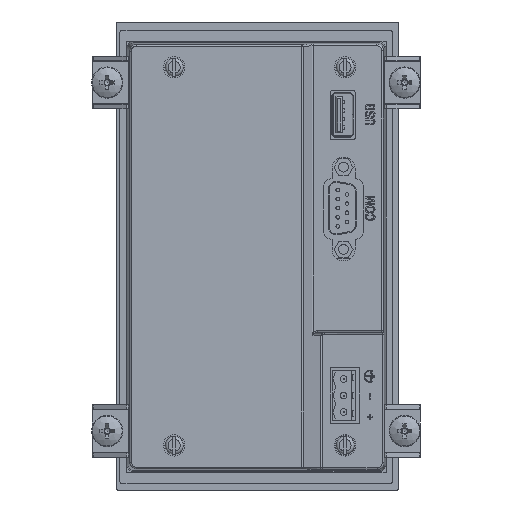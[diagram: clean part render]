
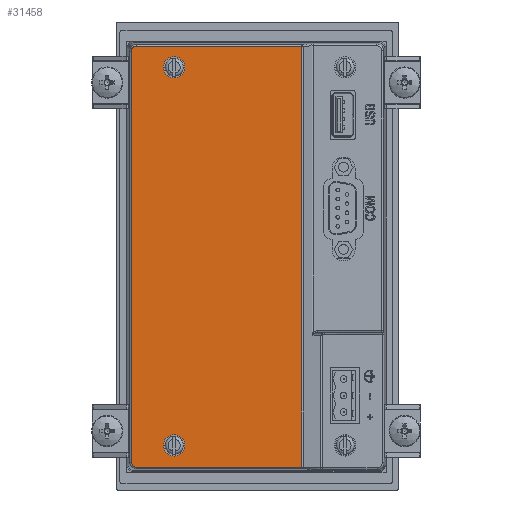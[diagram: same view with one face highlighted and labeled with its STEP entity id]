
A CAD part, left-side view. The second image highlights one B-rep face of the part: STEP entity #31458.
In plain terms, the highlighted planar face has unit normal (-1, 0, 0) as drawn and (0, 0, -1) by its records, which use the part's own axes.
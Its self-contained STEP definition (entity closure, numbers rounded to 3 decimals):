
#587 = ORIENTED_EDGE ( 'NONE', *, *, #32381, .T. ) ;
#715 = CARTESIAN_POINT ( 'NONE',  ( 121.882, 63.53, 0. ) ) ;
#2673 = VERTEX_POINT ( 'NONE', #33387 ) ;
#2814 = CARTESIAN_POINT ( 'NONE',  ( 0., 77., 0. ) ) ;
#3107 = ORIENTED_EDGE ( 'NONE', *, *, #30061, .T. ) ;
#3766 = ORIENTED_EDGE ( 'NONE', *, *, #23655, .T. ) ;
#4181 = AXIS2_PLACEMENT_3D ( 'NONE', #715, #40794, #45600 ) ;
#4549 = DIRECTION ( 'NONE',  ( 0., 1., 0. ) ) ;
#4884 = CARTESIAN_POINT ( 'NONE',  ( 1.988, 76.512, 0. ) ) ;
#6631 = CARTESIAN_POINT ( 'NONE',  ( 0., 24.753, 0. ) ) ;
#6940 = DIRECTION ( 'NONE',  ( -1., 0., 0. ) ) ;
#7073 = CARTESIAN_POINT ( 'NONE',  ( 127.001, 76.512, 0. ) ) ;
#7502 = LINE ( 'NONE', #6631, #42646 ) ;
#8565 = ORIENTED_EDGE ( 'NONE', *, *, #37171, .T. ) ;
#8972 = VERTEX_POINT ( 'NONE', #31055 ) ;
#9084 = AXIS2_PLACEMENT_3D ( 'NONE', #51637, #26702, #31914 ) ;
#10783 = CARTESIAN_POINT ( 'NONE',  ( 127.891, 76.512, 0. ) ) ;
#13288 = FACE_BOUND ( 'NONE', #29333, .T. ) ;
#14126 = VERTEX_POINT ( 'NONE', #56764 ) ;
#15380 = VECTOR ( 'NONE', #64351, 1000. ) ;
#15796 = CARTESIAN_POINT ( 'NONE',  ( 128.512, 75.012, 0. ) ) ;
#16576 = ORIENTED_EDGE ( 'NONE', *, *, #34503, .F. ) ;
#19447 = CARTESIAN_POINT ( 'NONE',  ( 0.488, 75.891, 0. ) ) ;
#21081 = DIRECTION ( 'NONE',  ( -1., 0., 0. ) ) ;
#23655 = EDGE_CURVE ( 'NONE', #47496, #29096, #62526, .T. ) ;
#23818 = CARTESIAN_POINT ( 'NONE',  ( 1.988, 76.512, 0. ) ) ;
#24312 = CARTESIAN_POINT ( 'NONE',  ( 0.488, 75.012, 0. ) ) ;
#24314 = EDGE_CURVE ( 'NONE', #14126, #14126, #28500, .T. ) ;
#26025 = CARTESIAN_POINT ( 'NONE',  ( 128.512, 75.012, 0. ) ) ;
#26427 = ORIENTED_EDGE ( 'NONE', *, *, #60597, .T. ) ;
#26702 = DIRECTION ( 'NONE',  ( 0., 0., -1. ) ) ;
#27873 = PLANE ( 'NONE',  #36836 ) ;
#28500 = CIRCLE ( 'NONE', #4181, 3.25 ) ;
#29096 = VERTEX_POINT ( 'NONE', #15796 ) ;
#29333 = EDGE_LOOP ( 'NONE', ( #47699 ) ) ;
#30061 = EDGE_CURVE ( 'NONE', #41970, #42000, #42346, .T. ) ;
#31027 = CARTESIAN_POINT ( 'NONE',  ( 128.512, 75.891, 0. ) ) ;
#31055 = CARTESIAN_POINT ( 'NONE',  ( 128.512, 24.753, 0. ) ) ;
#31458 = ADVANCED_FACE ( 'NONE', ( #36614, #48329, #13288 ), #27873, .T. ) ;
#31914 = DIRECTION ( 'NONE',  ( -1., 0., 0. ) ) ;
#32160 = DIRECTION ( 'NONE',  ( 1., 0., 0. ) ) ;
#32381 = EDGE_CURVE ( 'NONE', #29096, #8972, #37980, .T. ) ;
#33387 = CARTESIAN_POINT ( 'NONE',  ( 3.632, 63.53, 0. ) ) ;
#33544 = VECTOR ( 'NONE', #32160, 1000. ) ;
#33581 = CARTESIAN_POINT ( 'NONE',  ( 1.109, 76.512, 0. ) ) ;
#34358 = EDGE_LOOP ( 'NONE', ( #587, #46616, #26427, #3107, #8565, #3766 ) ) ;
#34503 = EDGE_CURVE ( 'NONE', #2673, #2673, #61892, .T. ) ;
#35056 = CARTESIAN_POINT ( 'NONE',  ( 0.488, 75.001, 0. ) ) ;
#35468 = LINE ( 'NONE', #35056, #51061 ) ;
#36614 = FACE_OUTER_BOUND ( 'NONE', #34358, .T. ) ;
#36836 = AXIS2_PLACEMENT_3D ( 'NONE', #2814, #47700, #6940 ) ;
#37171 = EDGE_CURVE ( 'NONE', #42000, #47496, #59837, .T. ) ;
#37980 = LINE ( 'NONE', #49522, #15380 ) ;
#38645 = CARTESIAN_POINT ( 'NONE',  ( 127.012, 76.512, 0. ) ) ;
#40794 = DIRECTION ( 'NONE',  ( 0., 0., -1. ) ) ;
#41970 = VERTEX_POINT ( 'NONE', #24312 ) ;
#42000 = VERTEX_POINT ( 'NONE', #4884 ) ;
#42346 =( BOUNDED_CURVE ( )  B_SPLINE_CURVE ( 3, ( #48599, #19447, #33581, #23818 ),
 .UNSPECIFIED., .F., .F. ) 
 B_SPLINE_CURVE_WITH_KNOTS ( ( 4, 4 ),
 ( 2.356, 3.927 ),
 .UNSPECIFIED. ) 
 CURVE ( )  GEOMETRIC_REPRESENTATION_ITEM ( )  RATIONAL_B_SPLINE_CURVE ( ( 1., 0.805, 0.805, 1. ) ) 
 REPRESENTATION_ITEM ( '' )  );
#42646 = VECTOR ( 'NONE', #21081, 1000. ) ;
#45060 = EDGE_LOOP ( 'NONE', ( #16576 ) ) ;
#45600 = DIRECTION ( 'NONE',  ( -1., 0., 0. ) ) ;
#46616 = ORIENTED_EDGE ( 'NONE', *, *, #62310, .T. ) ;
#47496 = VERTEX_POINT ( 'NONE', #38645 ) ;
#47699 = ORIENTED_EDGE ( 'NONE', *, *, #24314, .F. ) ;
#47700 = DIRECTION ( 'NONE',  ( 0., 0., -1. ) ) ;
#48329 = FACE_BOUND ( 'NONE', #45060, .T. ) ;
#48599 = CARTESIAN_POINT ( 'NONE',  ( 0.488, 75.012, 0. ) ) ;
#49522 = CARTESIAN_POINT ( 'NONE',  ( 128.512, 24.47, 0. ) ) ;
#51061 = VECTOR ( 'NONE', #4549, 1000. ) ;
#51637 = CARTESIAN_POINT ( 'NONE',  ( 6.882, 63.53, 0. ) ) ;
#51891 = CARTESIAN_POINT ( 'NONE',  ( 0.488, 24.753, 0. ) ) ;
#54215 = VERTEX_POINT ( 'NONE', #51891 ) ;
#55698 = CARTESIAN_POINT ( 'NONE',  ( 127.012, 76.512, 0. ) ) ;
#56764 = CARTESIAN_POINT ( 'NONE',  ( 118.632, 63.53, 0. ) ) ;
#59837 = LINE ( 'NONE', #7073, #33544 ) ;
#60597 = EDGE_CURVE ( 'NONE', #54215, #41970, #35468, .T. ) ;
#61892 = CIRCLE ( 'NONE', #9084, 3.25 ) ;
#62310 = EDGE_CURVE ( 'NONE', #8972, #54215, #7502, .T. ) ;
#62526 =( BOUNDED_CURVE ( )  B_SPLINE_CURVE ( 3, ( #55698, #10783, #31027, #26025 ),
 .UNSPECIFIED., .F., .F. ) 
 B_SPLINE_CURVE_WITH_KNOTS ( ( 4, 4 ),
 ( 2.356, 3.927 ),
 .UNSPECIFIED. ) 
 CURVE ( )  GEOMETRIC_REPRESENTATION_ITEM ( )  RATIONAL_B_SPLINE_CURVE ( ( 1., 0.805, 0.805, 1. ) ) 
 REPRESENTATION_ITEM ( '' )  );
#64351 = DIRECTION ( 'NONE',  ( 0., -1., 0. ) ) ;
